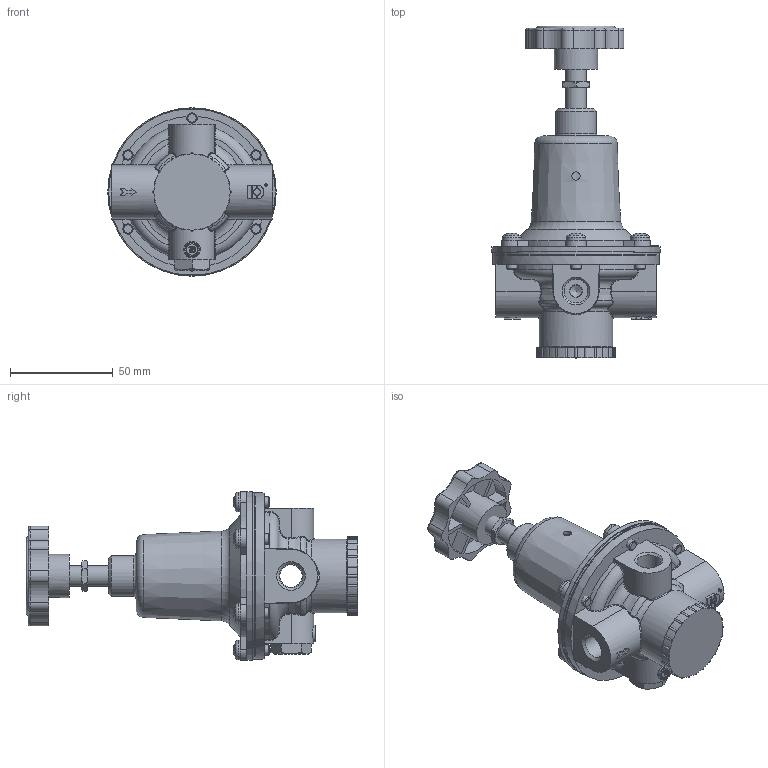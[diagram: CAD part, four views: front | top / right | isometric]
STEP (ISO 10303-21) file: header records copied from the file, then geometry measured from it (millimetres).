
FILE_DESCRIPTION(/* description */ (''),/* implementation_level */ '2;1');
FILE_NAME(/* name */ 'U:/AirCom-Produktdokumentation/Druckregler/R10/Zeichnungen/CAD-Aircom/3D/B-R10-02x_01.step',/* time_stamp */ '2021-09-21T14:27:56+02:00',/* author */ (''),/* organization */ (''),/* preprocessor_version */ 'ST-DEVELOPER v18.1',/* originating_system */ 'Autodesk Translation Framework v10.10.0.1391',/* authorisation */ '');
FILE_SCHEMA (('AUTOMOTIVE_DESIGN { 1 0 10303 214 3 1 1 }'));
Length unit declared in the file: millimetre
Products named in the file (22): C81033; P20245; P34099; OR 07073; P21044_1; P21044-Aux01_1; P38040_1; 0DE50309_7; 0DE50309_8; 0DE50309_9; C22089; OR 07027; P34098; C40004_1; P40017; P43128_1; P28080; 0DE50309_10; 0DE50309_11; 0DE50309_12; C23055_1; P23040_4
Assembly tree (21 placements, depth 3):
  C81033
    P20245
    P34099
    OR 07073
    P21044_1
      P21044-Aux01_1
      P38040_1
    0DE50309_7
    0DE50309_8
    0DE50309_9
    C22089
    OR 07027
    P34098
    C40004_1
      P40017
      P43128_1
      P28080
    0DE50309_10
    0DE50309_11
    0DE50309_12
    C23055_1
      P23040_4
Bounding box: 82 x 161.5 x 82 mm (x, y, z)
Volume: 102338.4 mm3; surface area: 71565.2 mm2
Topology: 17 solids, 17 shells, 933 faces, 2458 edges, 1558 vertices
Faces by surface type: plane 307, cylinder 282, cone 130, torus 129, bspline 76, sphere 9
Full cylindrical faces by diameter (mm): 0.5 x1, 0.85 x12, 1 x1, 1.2 x1, 4 x1, 4.134 x6, 4.567 x6, 5 x6, 5.5 x1, 5.8 x6, 6 x2, 7 x1, 7.2 x1, 8 x1, 8.8 x1, 8.917 x1, 10 x1, 10.5 x1, 11 x2, 11.5 x4, 13 x2, 13.157 x1, 16 x1, 20 x1, 21 x1, 29 x2, 30 x1, 30.5 x1, 35 x1, 36 x1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
Entity records: 35184 total; most frequent: CARTESIAN_POINT 11412, ORIENTED_EDGE 4902, DIRECTION 4871, EDGE_CURVE 2451, AXIS2_PLACEMENT_3D 2050, VERTEX_POINT 1558, CIRCLE 1084, EDGE_LOOP 1011
